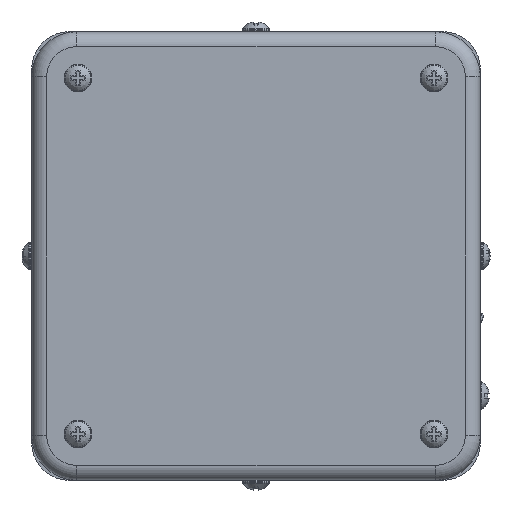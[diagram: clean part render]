
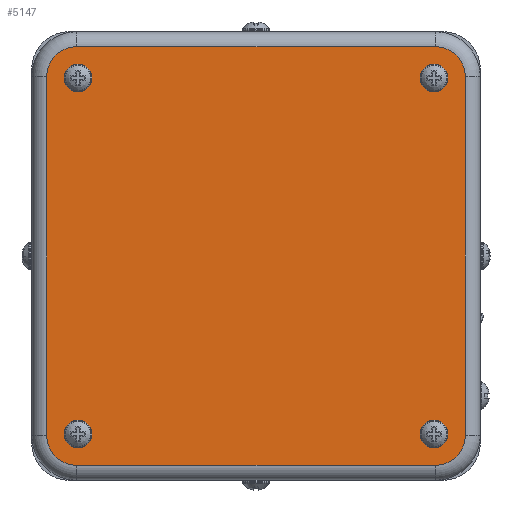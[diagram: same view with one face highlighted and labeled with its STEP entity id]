
A CAD part, left-side view. The second image highlights one B-rep face of the part: STEP entity #5147.
In plain terms, the highlighted planar face has unit normal (-1, 0, 0).
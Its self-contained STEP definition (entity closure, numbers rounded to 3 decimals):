
#172=LINE('',#8004,#530);
#175=LINE('',#8015,#533);
#177=LINE('',#8024,#535);
#179=LINE('',#8033,#537);
#530=VECTOR('',#6382,72.);
#533=VECTOR('',#6397,72.);
#535=VECTOR('',#6409,72.);
#537=VECTOR('',#6421,72.);
#980=PLANE('',#5562);
#1151=FACE_BOUND('',#1694,.T.);
#1152=FACE_BOUND('',#1695,.T.);
#1153=FACE_BOUND('',#1696,.T.);
#1154=FACE_BOUND('',#1697,.T.);
#1339=FACE_OUTER_BOUND('',#1693,.T.);
#1693=EDGE_LOOP('',(#3841,#3842,#3843,#3844,#3845,#3846,#3847,#3848));
#1694=EDGE_LOOP('',(#3849));
#1695=EDGE_LOOP('',(#3850));
#1696=EDGE_LOOP('',(#3851));
#1697=EDGE_LOOP('',(#3852));
#1952=CIRCLE('',#5359,2.8);
#2032=CIRCLE('',#5547,6.);
#2035=CIRCLE('',#5552,6.);
#2038=CIRCLE('',#5557,6.);
#2040=CIRCLE('',#5561,6.);
#2041=CIRCLE('',#5563,2.8);
#2042=CIRCLE('',#5564,2.8);
#2043=CIRCLE('',#5565,2.8);
#2139=VERTEX_POINT('',#7187);
#2325=VERTEX_POINT('',#8001);
#2326=VERTEX_POINT('',#8003);
#2327=VERTEX_POINT('',#8008);
#2328=VERTEX_POINT('',#8013);
#2329=VERTEX_POINT('',#8017);
#2330=VERTEX_POINT('',#8022);
#2331=VERTEX_POINT('',#8026);
#2332=VERTEX_POINT('',#8031);
#2333=VERTEX_POINT('',#8037);
#2334=VERTEX_POINT('',#8039);
#2335=VERTEX_POINT('',#8041);
#2618=EDGE_CURVE('',#2139,#2139,#1952,.T.);
#2878=EDGE_CURVE('',#2325,#2326,#172,.T.);
#2882=EDGE_CURVE('',#2327,#2325,#2032,.T.);
#2885=EDGE_CURVE('',#2328,#2327,#175,.T.);
#2887=EDGE_CURVE('',#2329,#2328,#2035,.T.);
#2890=EDGE_CURVE('',#2330,#2329,#177,.T.);
#2892=EDGE_CURVE('',#2331,#2330,#2038,.T.);
#2895=EDGE_CURVE('',#2332,#2331,#179,.T.);
#2896=EDGE_CURVE('',#2326,#2332,#2040,.T.);
#2897=EDGE_CURVE('',#2333,#2333,#2041,.T.);
#2898=EDGE_CURVE('',#2334,#2334,#2042,.T.);
#2899=EDGE_CURVE('',#2335,#2335,#2043,.T.);
#3841=ORIENTED_EDGE('',*,*,#2896,.F.);
#3842=ORIENTED_EDGE('',*,*,#2878,.F.);
#3843=ORIENTED_EDGE('',*,*,#2882,.F.);
#3844=ORIENTED_EDGE('',*,*,#2885,.F.);
#3845=ORIENTED_EDGE('',*,*,#2887,.F.);
#3846=ORIENTED_EDGE('',*,*,#2890,.F.);
#3847=ORIENTED_EDGE('',*,*,#2892,.F.);
#3848=ORIENTED_EDGE('',*,*,#2895,.F.);
#3849=ORIENTED_EDGE('',*,*,#2897,.T.);
#3850=ORIENTED_EDGE('',*,*,#2618,.T.);
#3851=ORIENTED_EDGE('',*,*,#2898,.T.);
#3852=ORIENTED_EDGE('',*,*,#2899,.T.);
#5147=ADVANCED_FACE('',(#1339,#1151,#1152,#1153,#1154),#980,.F.);
#5359=AXIS2_PLACEMENT_3D('',#7188,#5866,#5867);
#5547=AXIS2_PLACEMENT_3D('',#8010,#6390,#6391);
#5552=AXIS2_PLACEMENT_3D('',#8019,#6402,#6403);
#5557=AXIS2_PLACEMENT_3D('',#8028,#6414,#6415);
#5561=AXIS2_PLACEMENT_3D('',#8035,#6424,#6425);
#5562=AXIS2_PLACEMENT_3D('',#8036,#6426,#6427);
#5563=AXIS2_PLACEMENT_3D('',#8038,#6428,#6429);
#5564=AXIS2_PLACEMENT_3D('',#8040,#6430,#6431);
#5565=AXIS2_PLACEMENT_3D('',#8042,#6432,#6433);
#5866=DIRECTION('center_axis',(1.,0.,0.));
#5867=DIRECTION('ref_axis',(0.,0.,1.));
#6382=DIRECTION('',(0.,0.,-1.));
#6390=DIRECTION('center_axis',(1.,0.,0.));
#6391=DIRECTION('ref_axis',(0.,-0.707,0.707));
#6397=DIRECTION('',(0.,-1.,0.));
#6402=DIRECTION('center_axis',(1.,0.,0.));
#6403=DIRECTION('ref_axis',(0.,0.707,0.707));
#6409=DIRECTION('',(0.,0.,1.));
#6414=DIRECTION('center_axis',(1.,0.,0.));
#6415=DIRECTION('ref_axis',(0.,0.707,-0.707));
#6421=DIRECTION('',(0.,1.,0.));
#6424=DIRECTION('center_axis',(1.,0.,0.));
#6425=DIRECTION('ref_axis',(0.,-0.707,-0.707));
#6426=DIRECTION('center_axis',(1.,0.,0.));
#6427=DIRECTION('ref_axis',(0.,0.,-1.));
#6428=DIRECTION('center_axis',(1.,0.,0.));
#6429=DIRECTION('ref_axis',(0.,0.,1.));
#6430=DIRECTION('center_axis',(1.,0.,0.));
#6431=DIRECTION('ref_axis',(0.,0.,1.));
#6432=DIRECTION('center_axis',(1.,0.,0.));
#6433=DIRECTION('ref_axis',(0.,0.,1.));
#7187=CARTESIAN_POINT('',(-54.8,-35.709,32.909));
#7188=CARTESIAN_POINT('Origin',(-54.8,-35.709,35.709));
#8001=CARTESIAN_POINT('',(-54.8,-42.,36.));
#8003=CARTESIAN_POINT('',(-54.8,-42.,-36.));
#8004=CARTESIAN_POINT('',(-54.8,-42.,36.));
#8008=CARTESIAN_POINT('',(-54.8,-36.,42.));
#8010=CARTESIAN_POINT('Origin',(-54.8,-36.,36.));
#8013=CARTESIAN_POINT('',(-54.8,36.,42.));
#8015=CARTESIAN_POINT('',(-54.8,36.,42.));
#8017=CARTESIAN_POINT('',(-54.8,42.,36.));
#8019=CARTESIAN_POINT('Origin',(-54.8,36.,36.));
#8022=CARTESIAN_POINT('',(-54.8,42.,-36.));
#8024=CARTESIAN_POINT('',(-54.8,42.,-36.));
#8026=CARTESIAN_POINT('',(-54.8,36.,-42.));
#8028=CARTESIAN_POINT('Origin',(-54.8,36.,-36.));
#8031=CARTESIAN_POINT('',(-54.8,-36.,-42.));
#8033=CARTESIAN_POINT('',(-54.8,-36.,-42.));
#8035=CARTESIAN_POINT('Origin',(-54.8,-36.,-36.));
#8036=CARTESIAN_POINT('Origin',(-54.8,-7.027,-7.027));
#8037=CARTESIAN_POINT('',(-54.8,35.709,32.909));
#8038=CARTESIAN_POINT('Origin',(-54.8,35.709,35.709));
#8039=CARTESIAN_POINT('',(-54.8,35.709,-38.509));
#8040=CARTESIAN_POINT('Origin',(-54.8,35.709,-35.709));
#8041=CARTESIAN_POINT('',(-54.8,-35.709,-38.509));
#8042=CARTESIAN_POINT('Origin',(-54.8,-35.709,-35.709));
